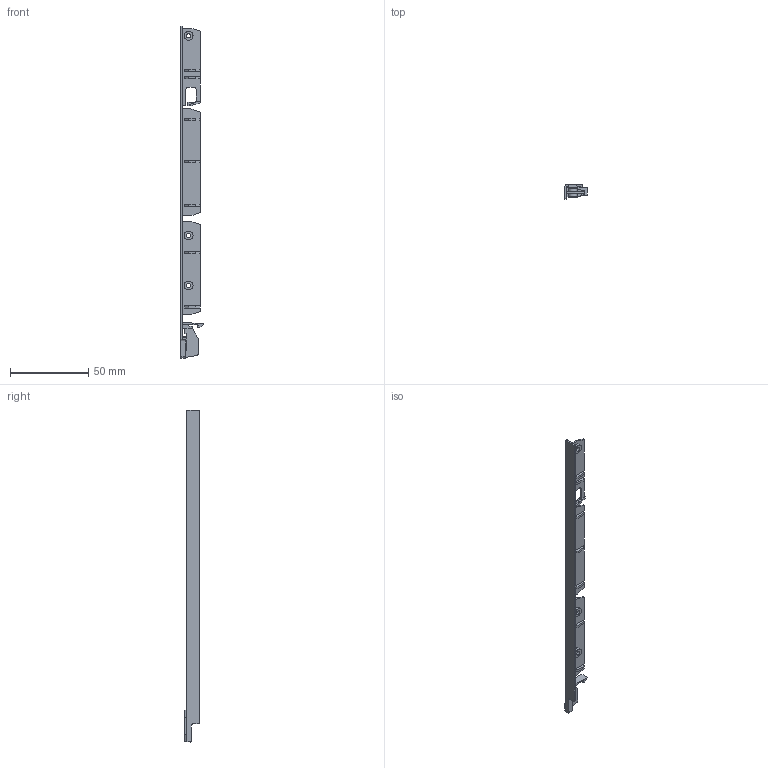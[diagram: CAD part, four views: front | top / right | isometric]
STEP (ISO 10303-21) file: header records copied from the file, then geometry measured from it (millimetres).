
FILE_DESCRIPTION (( 'STEP AP203' ), '1' );
FILE_NAME ('Vionaro V8 Abdeckkappe Innenblende H200 links.step', '2022-04-27T08:31:57', ( '' ), ( '' ), 'SwSTEP 2.0', 'SolidWorks 2021', '' );
FILE_SCHEMA (( 'CONFIG_CONTROL_DESIGN' ));
Length unit declared in the file: millimetre
Products named in the file (1): Vionaro V8 Abdeckkappe Innenblende H200 links
Bounding box: 14.56 x 9.55 x 212.7 mm (x, y, z)
Volume: 4768.9 mm3; surface area: 9171.5 mm2
Topology: 1 solids, 1 shells, 190 faces, 555 edges, 369 vertices
Faces by surface type: plane 158, cylinder 32
Entity records: 6312 total; most frequent: CARTESIAN_POINT 1115, ORIENTED_EDGE 1110, DIRECTION 1001, EDGE_CURVE 555, LINE 491, VECTOR 491, VERTEX_POINT 369, AXIS2_PLACEMENT_3D 255
